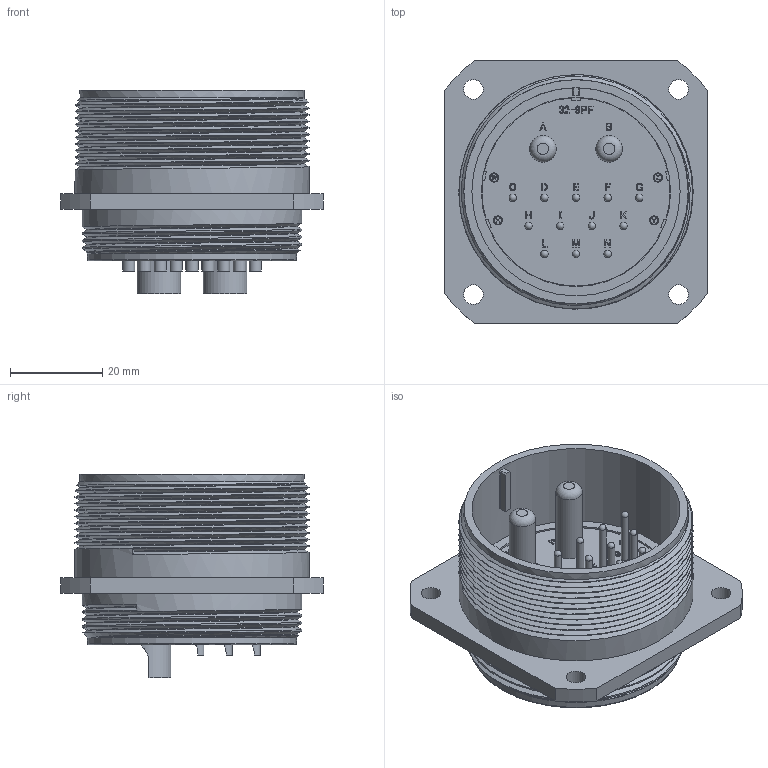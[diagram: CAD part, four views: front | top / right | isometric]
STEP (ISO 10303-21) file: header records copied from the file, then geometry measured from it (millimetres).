
FILE_DESCRIPTION (( 'STEP AP203' ), '1' );
FILE_NAME ('DMS3100A32-9P(D263).STEP', '2022-02-15T01:43:15', ( '' ), ( '' ), 'SwSTEP 2.0', 'SolidWorks 2018', '' );
FILE_SCHEMA (( 'CONFIG_CONTROL_DESIGN' ));
Length unit declared in the file: millimetre
Products named in the file (1): DMS3100A32-9P(D263)
Bounding box: 56.9 x 56.9 x 44.02 mm (x, y, z)
Volume: 38914.6 mm3; surface area: 22577.5 mm2
Topology: 1 solids, 1 shells, 865 faces, 2309 edges, 1525 vertices
Faces by surface type: plane 513, bspline 209, cylinder 126, sphere 12, torus 3, cone 2
Full cylindrical faces by diameter (mm): 1.59 x12, 1.6 x4, 2 x4, 4.27 x4, 5.74 x2, 8.33 x2, 9.48 x2, 38.1 x1, 41 x1, 42.93 x1, 45.12 x1, 45.3 x1, 47.58 x3, 48.6 x1, 50.76 x9
Entity records: 35389 total; most frequent: CARTESIAN_POINT 15848, ORIENTED_EDGE 4370, DIRECTION 3195, EDGE_CURVE 2185, VECTOR 1497, LINE 1497, VERTEX_POINT 1480, EDGE_LOOP 1007
